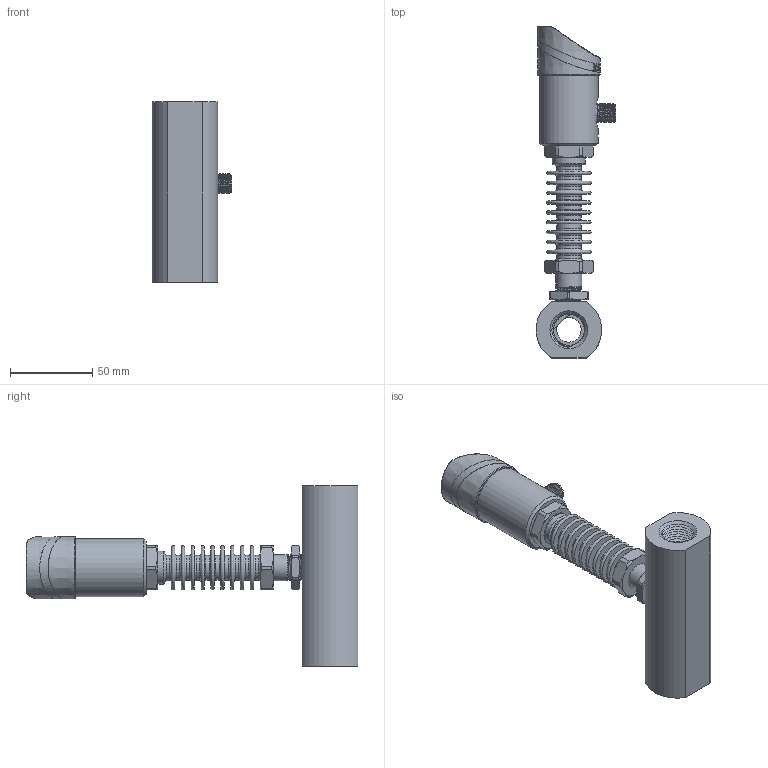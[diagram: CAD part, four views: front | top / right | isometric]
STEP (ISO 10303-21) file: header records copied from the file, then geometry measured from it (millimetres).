
FILE_DESCRIPTION( (''), '2;1');
FILE_NAME( 'QTKE_DN15_female-thread_high-temp.step', '2024-10-15T13:49:31+08:00', (''), (''), '', '', '');
FILE_SCHEMA (('AUTOMOTIVE_DESIGN { 1 0 10303 214 3 1 1 1 }'));
Products named in the file (1): QTKE DN15_female-thread_high-temp
Bounding box: 48.7 x 202 x 110 mm (x, y, z)
Volume: 145454 mm3; surface area: 67706.7 mm2
Topology: 5 solids, 5 shells, 1002 faces, 2562 edges, 1660 vertices
Faces by surface type: plane 404, cylinder 171, extrusion 160, cone 109, bspline 77, torus 60, sphere 21
Full cylindrical faces by diameter (mm): 1.689 x1, 2 x1, 2.7 x6, 3.5 x5, 12 x1, 13 x1, 15 x12, 15.9 x1, 19 x2, 20 x1, 23 x3, 26 x5, 31.7 x1, 32 x1, 34 x1, 34.2 x1, 35.5 x2
Entity records: 46437 total; most frequent: CARTESIAN_POINT 19591, ORIENTED_EDGE 4732, DIRECTION 4048, EDGE_CURVE 2366, VERTEX_POINT 1600, AXIS2_PLACEMENT_3D 1438, EDGE_LOOP 1234, VECTOR 1172
